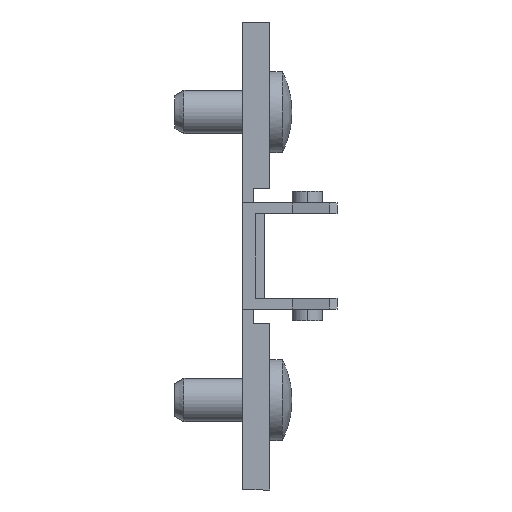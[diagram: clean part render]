
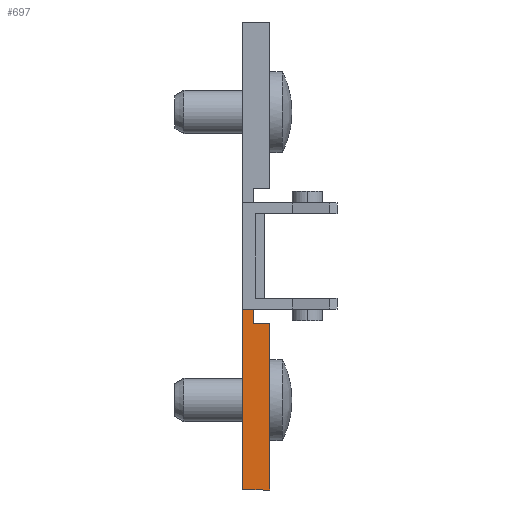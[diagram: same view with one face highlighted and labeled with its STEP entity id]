
A CAD part, front view. The second image highlights one B-rep face of the part: STEP entity #697.
In plain terms, the highlighted planar face has unit normal (0, -1, 0).
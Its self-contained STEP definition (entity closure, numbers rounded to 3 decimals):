
#18 = EDGE_CURVE ( 'NONE', #2264, #2270, #388, .T. ) ;
#75 = EDGE_CURVE ( 'NONE', #2264, #2275, #276, .T. ) ;
#258 = VECTOR ( 'NONE', #2438, 1000. ) ;
#276 = LINE ( 'NONE', #2449, #258 ) ;
#349 = EDGE_LOOP ( 'NONE', ( #1140, #1131, #1141, #1142, #1143, #1134 ) ) ;
#376 = VECTOR ( 'NONE', #2360, 1000. ) ;
#388 = LINE ( 'NONE', #2335, #376 ) ;
#697 = ADVANCED_FACE ( 'NONE', ( #3253 ), #1968, .F. ) ;
#1131 = ORIENTED_EDGE ( 'NONE', *, *, #75, .T. ) ;
#1134 = ORIENTED_EDGE ( 'NONE', *, *, #2758, .T. ) ;
#1140 = ORIENTED_EDGE ( 'NONE', *, *, #18, .F. ) ;
#1141 = ORIENTED_EDGE ( 'NONE', *, *, #2717, .T. ) ;
#1142 = ORIENTED_EDGE ( 'NONE', *, *, #2794, .T. ) ;
#1143 = ORIENTED_EDGE ( 'NONE', *, *, #2860, .T. ) ;
#1329 = CARTESIAN_POINT ( 'NONE',  ( 3., -9., -7.5 ) ) ;
#1426 = DIRECTION ( 'NONE',  ( 0., 1., 0. ) ) ;
#1427 = DIRECTION ( 'NONE',  ( 0., 0., 1. ) ) ;
#1451 = CARTESIAN_POINT ( 'NONE',  ( 3., -9., -26. ) ) ;
#1468 = CARTESIAN_POINT ( 'NONE',  ( 0., -9., -26. ) ) ;
#1471 = CARTESIAN_POINT ( 'NONE',  ( 1.2, -9., -7.5 ) ) ;
#1511 = CARTESIAN_POINT ( 'NONE',  ( 0., -9., -5.9 ) ) ;
#1517 = CARTESIAN_POINT ( 'NONE',  ( 1.2, -9., -5.9 ) ) ;
#1570 = DIRECTION ( 'NONE',  ( 0., 0., 1. ) ) ;
#1571 = CARTESIAN_POINT ( 'NONE',  ( 1.2, -9., -5. ) ) ;
#1604 = CARTESIAN_POINT ( 'NONE',  ( 3., -9., -26. ) ) ;
#1605 = DIRECTION ( 'NONE',  ( 1., 0., 0. ) ) ;
#1785 = DIRECTION ( 'NONE',  ( 0., 0., 1. ) ) ;
#1786 = CARTESIAN_POINT ( 'NONE',  ( 3., -9., -7.5 ) ) ;
#1844 = CARTESIAN_POINT ( 'NONE',  ( 1.2, -9., -7.5 ) ) ;
#1845 = DIRECTION ( 'NONE',  ( -1., 0., 0. ) ) ;
#1965 = CARTESIAN_POINT ( 'NONE',  ( 1.2, -9., -5. ) ) ;
#1968 = PLANE ( 'NONE',  #2740 ) ;
#2187 = VERTEX_POINT ( 'NONE', #1329 ) ;
#2227 = VERTEX_POINT ( 'NONE', #1451 ) ;
#2264 = VERTEX_POINT ( 'NONE', #1511 ) ;
#2270 = VERTEX_POINT ( 'NONE', #1517 ) ;
#2275 = VERTEX_POINT ( 'NONE', #1468 ) ;
#2278 = VERTEX_POINT ( 'NONE', #1471 ) ;
#2335 = CARTESIAN_POINT ( 'NONE',  ( 1.2, -9., -5.9 ) ) ;
#2360 = DIRECTION ( 'NONE',  ( 1., 0., 0. ) ) ;
#2438 = DIRECTION ( 'NONE',  ( 0., 0., -1. ) ) ;
#2449 = CARTESIAN_POINT ( 'NONE',  ( 0., -9., -26. ) ) ;
#2717 = EDGE_CURVE ( 'NONE', #2275, #2227, #3119, .T. ) ;
#2740 = AXIS2_PLACEMENT_3D ( 'NONE', #1965, #1426, #1427 ) ;
#2758 = EDGE_CURVE ( 'NONE', #2278, #2270, #3073, .T. ) ;
#2794 = EDGE_CURVE ( 'NONE', #2227, #2187, #2938, .T. ) ;
#2860 = EDGE_CURVE ( 'NONE', #2187, #2278, #2999, .T. ) ;
#2934 = VECTOR ( 'NONE', #1785, 1000. ) ;
#2938 = LINE ( 'NONE', #1786, #2934 ) ;
#2998 = VECTOR ( 'NONE', #1845, 1000. ) ;
#2999 = LINE ( 'NONE', #1844, #2998 ) ;
#3072 = VECTOR ( 'NONE', #1570, 1000. ) ;
#3073 = LINE ( 'NONE', #1571, #3072 ) ;
#3118 = VECTOR ( 'NONE', #1605, 1000. ) ;
#3119 = LINE ( 'NONE', #1604, #3118 ) ;
#3253 = FACE_OUTER_BOUND ( 'NONE', #349, .T. ) ;
